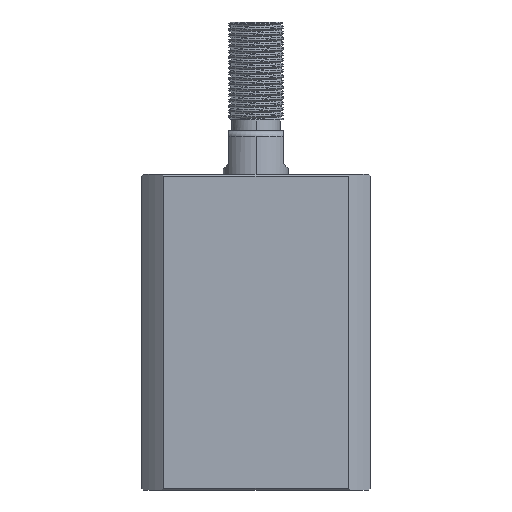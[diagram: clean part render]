
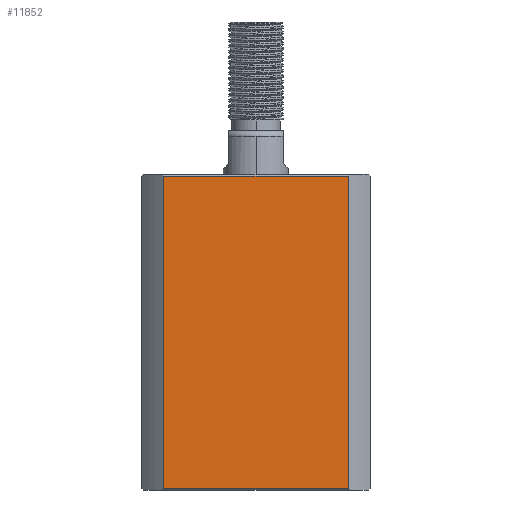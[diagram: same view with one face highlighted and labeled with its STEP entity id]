
A CAD part, left-side view. The second image highlights one B-rep face of the part: STEP entity #11852.
In plain terms, the highlighted planar face has unit normal (-1, 0, 0).
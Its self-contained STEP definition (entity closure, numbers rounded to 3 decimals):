
#781 = VERTEX_POINT ( 'NONE', #7314 ) ;
#803 = DIRECTION ( 'NONE',  ( 0., 0., 1. ) ) ;
#1146 = EDGE_CURVE ( 'NONE', #9514, #14429, #9814, .T. ) ;
#1505 = ORIENTED_EDGE ( 'NONE', *, *, #8699, .F. ) ;
#2694 = LINE ( 'NONE', #7786, #8927 ) ;
#3095 = PLANE ( 'NONE',  #12795 ) ;
#3162 = ORIENTED_EDGE ( 'NONE', *, *, #12497, .F. ) ;
#3398 = EDGE_CURVE ( 'NONE', #9698, #781, #7631, .T. ) ;
#3565 = DIRECTION ( 'NONE',  ( 0., 0., -1. ) ) ;
#3870 = ORIENTED_EDGE ( 'NONE', *, *, #3398, .T. ) ;
#4258 = DIRECTION ( 'NONE',  ( 0., 1., 0. ) ) ;
#4507 = VECTOR ( 'NONE', #10551, 1000. ) ;
#5681 = CARTESIAN_POINT ( 'NONE',  ( -21., 21., 57.7 ) ) ;
#6253 = CARTESIAN_POINT ( 'NONE',  ( -21., -16.971, 57.7 ) ) ;
#7050 = CARTESIAN_POINT ( 'NONE',  ( -21., 21., 0.3 ) ) ;
#7078 = VECTOR ( 'NONE', #14984, 1000. ) ;
#7314 = CARTESIAN_POINT ( 'NONE',  ( -21., -16.971, 0.3 ) ) ;
#7631 = LINE ( 'NONE', #7050, #4507 ) ;
#7786 = CARTESIAN_POINT ( 'NONE',  ( -21., 16.971, -242. ) ) ;
#8699 = EDGE_CURVE ( 'NONE', #9698, #14429, #2694, .T. ) ;
#8927 = VECTOR ( 'NONE', #803, 1000. ) ;
#9514 = VERTEX_POINT ( 'NONE', #6253 ) ;
#9698 = VERTEX_POINT ( 'NONE', #10030 ) ;
#9814 = LINE ( 'NONE', #5681, #7078 ) ;
#10025 = CARTESIAN_POINT ( 'NONE',  ( -21., 21., 58. ) ) ;
#10030 = CARTESIAN_POINT ( 'NONE',  ( -21., 16.971, 0.3 ) ) ;
#10551 = DIRECTION ( 'NONE',  ( 0., -1., 0. ) ) ;
#11241 = DIRECTION ( 'NONE',  ( 1., 0., 0. ) ) ;
#11396 = CARTESIAN_POINT ( 'NONE',  ( -21., -16.971, -242. ) ) ;
#11852 = ADVANCED_FACE ( 'NONE', ( #12316 ), #3095, .F. ) ;
#12071 = CARTESIAN_POINT ( 'NONE',  ( -21., 16.971, 57.7 ) ) ;
#12316 = FACE_OUTER_BOUND ( 'NONE', #12774, .T. ) ;
#12450 = VECTOR ( 'NONE', #3565, 1000. ) ;
#12497 = EDGE_CURVE ( 'NONE', #9514, #781, #13165, .T. ) ;
#12774 = EDGE_LOOP ( 'NONE', ( #1505, #3870, #3162, #14423 ) ) ;
#12795 = AXIS2_PLACEMENT_3D ( 'NONE', #10025, #11241, #4258 ) ;
#13165 = LINE ( 'NONE', #11396, #12450 ) ;
#14423 = ORIENTED_EDGE ( 'NONE', *, *, #1146, .T. ) ;
#14429 = VERTEX_POINT ( 'NONE', #12071 ) ;
#14984 = DIRECTION ( 'NONE',  ( 0., 1., 0. ) ) ;
